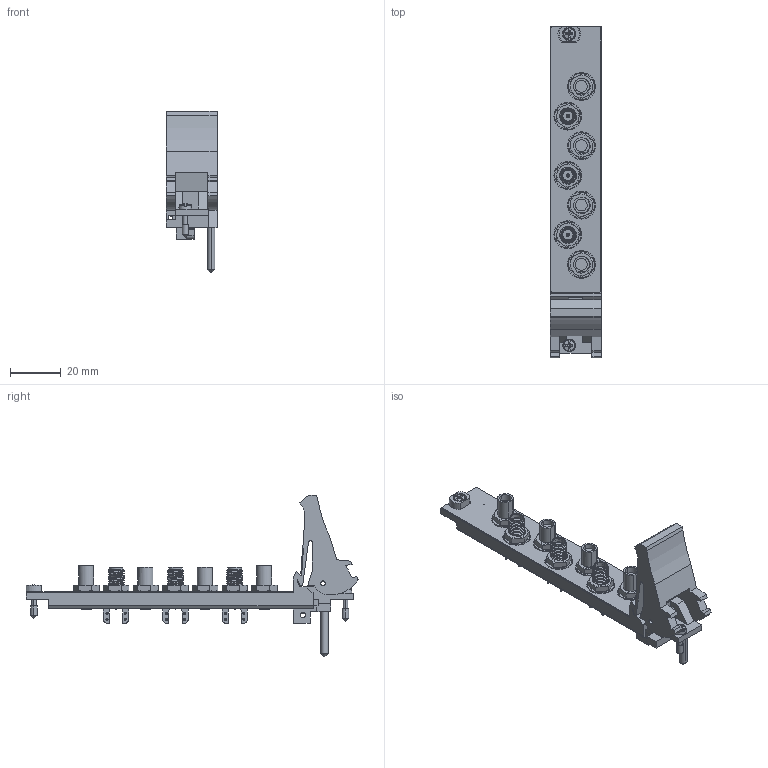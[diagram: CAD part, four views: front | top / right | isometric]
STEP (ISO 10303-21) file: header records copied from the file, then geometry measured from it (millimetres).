
FILE_DESCRIPTION((''),'2;1');
FILE_NAME('CU_PXIE-2790','2012-07-12T',('jjorden'),(''),'PRO/ENGINEER BY PARAMETRIC TECHNOLOGY CORPORATION, 2010230','PRO/ENGINEER BY PARAMETRIC TECHNOLOGY CORPORATION, 2010230','');
FILE_SCHEMA(('CONFIG_CONTROL_DESIGN'));
Length unit declared in the file: inch
Products named in the file (1): CU_PXIE-2790
Bounding box: 20.27 x 130.5 x 63.53 mm (x, y, z)
Volume: 18945.3 mm3; surface area: 21930.5 mm2
Topology: 4 solids, 13 shells, 2772 faces, 7411 edges, 4606 vertices
Faces by surface type: plane 1127, cylinder 1059, bspline 345, cone 168, torus 54, extrusion 11, sphere 8
Entity records: 121064 total; most frequent: CARTESIAN_POINT 56736, ORIENTED_EDGE 14744, DIRECTION 11439, EDGE_CURVE 7372, VERTEX_POINT 4596, AXIS2_PLACEMENT_3D 4079, VECTOR 3281, LINE 3270
